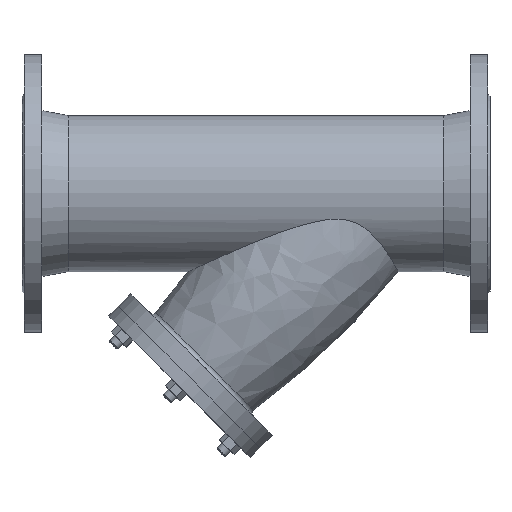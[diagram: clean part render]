
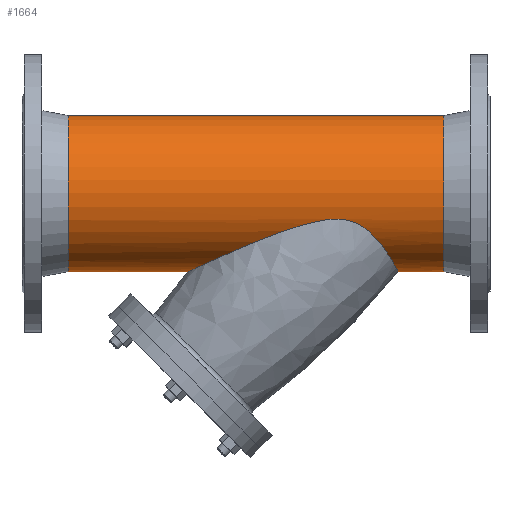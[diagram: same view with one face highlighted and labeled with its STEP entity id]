
A CAD part, top view. The second image highlights one B-rep face of the part: STEP entity #1664.
In plain terms, the highlighted cylindrical face has radius 80 mm (diameter 160 mm), a partial arc.
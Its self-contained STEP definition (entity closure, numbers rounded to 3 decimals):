
#281=CARTESIAN_POINT('',(145.848,-80.,0.));
#282=CARTESIAN_POINT('',(145.848,-80.,3.96));
#283=CARTESIAN_POINT('',(145.529,-79.424,12.));
#284=CARTESIAN_POINT('',(143.905,-76.52,24.493));
#285=CARTESIAN_POINT('',(141.171,-71.772,35.972));
#286=CARTESIAN_POINT('',(137.814,-66.209,45.293));
#287=CARTESIAN_POINT('',(133.756,-59.868,53.424));
#288=CARTESIAN_POINT('',(128.171,-51.937,61.182));
#289=CARTESIAN_POINT('',(121.21,-43.55,67.33));
#290=CARTESIAN_POINT('',(113.399,-36.367,71.359));
#291=CARTESIAN_POINT('',(105.897,-31.48,73.591));
#292=CARTESIAN_POINT('',(96.993,-27.826,75.024));
#293=CARTESIAN_POINT('',(86.435,-26.092,75.624));
#294=CARTESIAN_POINT('',(75.115,-26.376,75.529));
#295=CARTESIAN_POINT('',(62.973,-28.271,74.854));
#296=CARTESIAN_POINT('',(50.346,-31.39,73.619));
#297=CARTESIAN_POINT('',(37.348,-35.399,71.797));
#298=CARTESIAN_POINT('',(24.043,-40.073,69.318));
#299=CARTESIAN_POINT('',(10.564,-45.225,66.092));
#300=CARTESIAN_POINT('',(-2.159,-50.368,62.261));
#301=CARTESIAN_POINT('',(-13.104,-54.951,58.239));
#302=CARTESIAN_POINT('',(-22.416,-58.941,54.187));
#303=CARTESIAN_POINT('',(-30.493,-62.457,50.081));
#304=CARTESIAN_POINT('',(-37.499,-65.542,45.972));
#305=CARTESIAN_POINT('',(-44.292,-68.561,41.356));
#306=CARTESIAN_POINT('',(-50.529,-71.354,36.323));
#307=CARTESIAN_POINT('',(-55.715,-73.69,31.301));
#308=CARTESIAN_POINT('',(-60.11,-75.678,26.146));
#309=CARTESIAN_POINT('',(-63.952,-77.421,20.465));
#310=CARTESIAN_POINT('',(-67.087,-78.848,14.092));
#311=CARTESIAN_POINT('',(-69.146,-79.787,7.132));
#312=CARTESIAN_POINT('',(-69.614,-80.,2.401));
#313=CARTESIAN_POINT('',(-69.614,-80.,0.));
#315=DIRECTION('',(-1.,0.,0.));
#316=VECTOR('',#315,122.886);
#317=CARTESIAN_POINT('',(-69.614,-80.,0.));
#318=LINE('',#317,#316);
#319=CARTESIAN_POINT('',(-192.5,0.,0.));
#320=DIRECTION('',(-1.,0.,0.));
#321=DIRECTION('',(0.,-1.,0.));
#322=AXIS2_PLACEMENT_3D('',#319,#320,#321);
#324=CARTESIAN_POINT('',(192.5,0.,0.));
#325=DIRECTION('',(-1.,0.,0.));
#326=DIRECTION('',(0.,-1.,0.));
#327=AXIS2_PLACEMENT_3D('',#324,#325,#326);
#329=DIRECTION('',(-1.,0.,0.));
#330=VECTOR('',#329,46.652);
#331=CARTESIAN_POINT('',(192.5,-80.,0.));
#332=LINE('',#331,#330);
#569=CARTESIAN_POINT('',(-69.614,-80.,0.));
#606=CARTESIAN_POINT('',(145.848,-80.,0.));
#613=DIRECTION('',(-1.,0.,0.));
#614=VECTOR('',#613,385.);
#615=CARTESIAN_POINT('',(192.5,80.,0.));
#616=LINE('',#615,#614);
#1106=CARTESIAN_POINT('',(192.5,80.,0.));
#1107=CARTESIAN_POINT('',(192.5,-80.,0.));
#1108=VERTEX_POINT('',#1106);
#1109=VERTEX_POINT('',#1107);
#1110=CARTESIAN_POINT('',(-192.5,80.,0.));
#1111=CARTESIAN_POINT('',(-192.5,-80.,0.));
#1112=VERTEX_POINT('',#1110);
#1113=VERTEX_POINT('',#1111);
#1114=VERTEX_POINT('',#569);
#1115=VERTEX_POINT('',#606);
#1646=CARTESIAN_POINT('',(219.5,0.,0.));
#1647=DIRECTION('',(-1.,0.,0.));
#1648=DIRECTION('',(0.,1.,0.));
#1649=AXIS2_PLACEMENT_3D('',#1646,#1647,#1648);
#1650=CYLINDRICAL_SURFACE('',#1649,80.);
#1652=ORIENTED_EDGE('',*,*,#1651,.T.);
#1654=ORIENTED_EDGE('',*,*,#1653,.T.);
#1656=ORIENTED_EDGE('',*,*,#1655,.T.);
#1658=ORIENTED_EDGE('',*,*,#1657,.F.);
#1659=ORIENTED_EDGE('',*,*,#1640,.F.);
#1661=ORIENTED_EDGE('',*,*,#1660,.T.);
#1662=EDGE_LOOP('',(#1652,#1654,#1656,#1658,#1659,#1661));
#1663=FACE_OUTER_BOUND('',#1662,.F.);
#1664=ADVANCED_FACE('',(#1663),#1650,.T.);
#314=B_SPLINE_CURVE_WITH_KNOTS('',3,(#281,#282,#283,#284,#285,#286,#287,#288,
#289,#290,#291,#292,#293,#294,#295,#296,#297,#298,#299,#300,#301,#302,#303,#304,
#305,#306,#307,#308,#309,#310,#311,#312,#313),.UNSPECIFIED.,.F.,.F.,(4,1,1,1,1,
1,1,1,1,1,1,1,1,1,1,1,1,1,1,1,1,1,1,1,1,1,1,1,1,1,4),(0.,0.033,
0.067,0.1,0.133,0.167,0.2,
0.233,0.267,0.3,0.333,0.367,
0.4,0.433,0.467,0.5,0.533,
0.567,0.6,0.633,0.667,0.7,
0.733,0.767,0.8,0.833,0.867,
0.9,0.933,0.967,1.),.UNSPECIFIED.);
#323=CIRCLE('',#322,80.);
#328=CIRCLE('',#327,80.);
#1640=EDGE_CURVE('',#1109,#1108,#328,.T.);
#1651=EDGE_CURVE('',#1115,#1114,#314,.T.);
#1653=EDGE_CURVE('',#1114,#1113,#318,.T.);
#1655=EDGE_CURVE('',#1113,#1112,#323,.T.);
#1657=EDGE_CURVE('',#1108,#1112,#616,.T.);
#1660=EDGE_CURVE('',#1109,#1115,#332,.T.);
